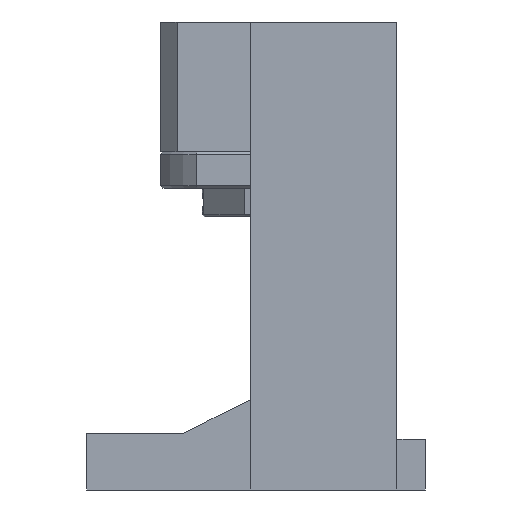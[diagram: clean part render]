
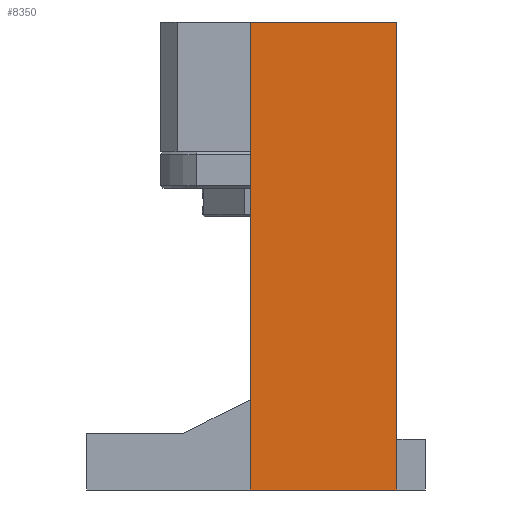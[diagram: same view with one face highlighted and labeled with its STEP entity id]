
A CAD part, left-side view. The second image highlights one B-rep face of the part: STEP entity #8350.
In plain terms, the highlighted planar face has unit normal (-1, 0, 0).
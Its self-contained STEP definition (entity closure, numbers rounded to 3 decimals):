
#155 = CARTESIAN_POINT ( 'NONE',  ( -35., -25., 5. ) ) ;
#211 = VECTOR ( 'NONE', #6971, 1000. ) ;
#482 = LINE ( 'NONE', #2402, #7156 ) ;
#975 = EDGE_CURVE ( 'NONE', #4585, #3981, #7051, .T. ) ;
#1095 = CARTESIAN_POINT ( 'NONE',  ( -35., 1., 5. ) ) ;
#1111 = DIRECTION ( 'NONE',  ( 0., -1., 0. ) ) ;
#1709 = LINE ( 'NONE', #1095, #4939 ) ;
#1798 = CARTESIAN_POINT ( 'NONE',  ( -35., 1., -78. ) ) ;
#1865 = CARTESIAN_POINT ( 'NONE',  ( -35., 1., -18. ) ) ;
#2271 = VERTEX_POINT ( 'NONE', #155 ) ;
#2363 = AXIS2_PLACEMENT_3D ( 'NONE', #1865, #6374, #2533 ) ;
#2365 = ORIENTED_EDGE ( 'NONE', *, *, #3356, .F. ) ;
#2402 = CARTESIAN_POINT ( 'NONE',  ( -35., -25., -18. ) ) ;
#2533 = DIRECTION ( 'NONE',  ( 0., -1., 0. ) ) ;
#3204 = ORIENTED_EDGE ( 'NONE', *, *, #975, .T. ) ;
#3356 = EDGE_CURVE ( 'NONE', #4585, #7830, #5263, .T. ) ;
#3636 = VECTOR ( 'NONE', #7138, 1000. ) ;
#3981 = VERTEX_POINT ( 'NONE', #5357 ) ;
#4585 = VERTEX_POINT ( 'NONE', #1798 ) ;
#4939 = VECTOR ( 'NONE', #1111, 1000. ) ;
#4955 = DIRECTION ( 'NONE',  ( 0., 0., 1. ) ) ;
#5059 = PLANE ( 'NONE',  #2363 ) ;
#5263 = LINE ( 'NONE', #7282, #3636 ) ;
#5357 = CARTESIAN_POINT ( 'NONE',  ( -35., -25., -78. ) ) ;
#5759 = ORIENTED_EDGE ( 'NONE', *, *, #5884, .F. ) ;
#5884 = EDGE_CURVE ( 'NONE', #7830, #2271, #1709, .T. ) ;
#6184 = ORIENTED_EDGE ( 'NONE', *, *, #7616, .T. ) ;
#6374 = DIRECTION ( 'NONE',  ( -1., 0., 0. ) ) ;
#6610 = CARTESIAN_POINT ( 'NONE',  ( -35., -30., -78. ) ) ;
#6613 = EDGE_LOOP ( 'NONE', ( #3204, #6184, #5759, #2365 ) ) ;
#6841 = FACE_OUTER_BOUND ( 'NONE', #6613, .T. ) ;
#6971 = DIRECTION ( 'NONE',  ( 0., -1., 0. ) ) ;
#7051 = LINE ( 'NONE', #6610, #211 ) ;
#7093 = CARTESIAN_POINT ( 'NONE',  ( -35., 1., 5. ) ) ;
#7138 = DIRECTION ( 'NONE',  ( 0., 0., 1. ) ) ;
#7156 = VECTOR ( 'NONE', #4955, 1000. ) ;
#7282 = CARTESIAN_POINT ( 'NONE',  ( -35., 1., -18. ) ) ;
#7616 = EDGE_CURVE ( 'NONE', #3981, #2271, #482, .T. ) ;
#7830 = VERTEX_POINT ( 'NONE', #7093 ) ;
#8350 = ADVANCED_FACE ( 'NONE', ( #6841 ), #5059, .T. ) ;
